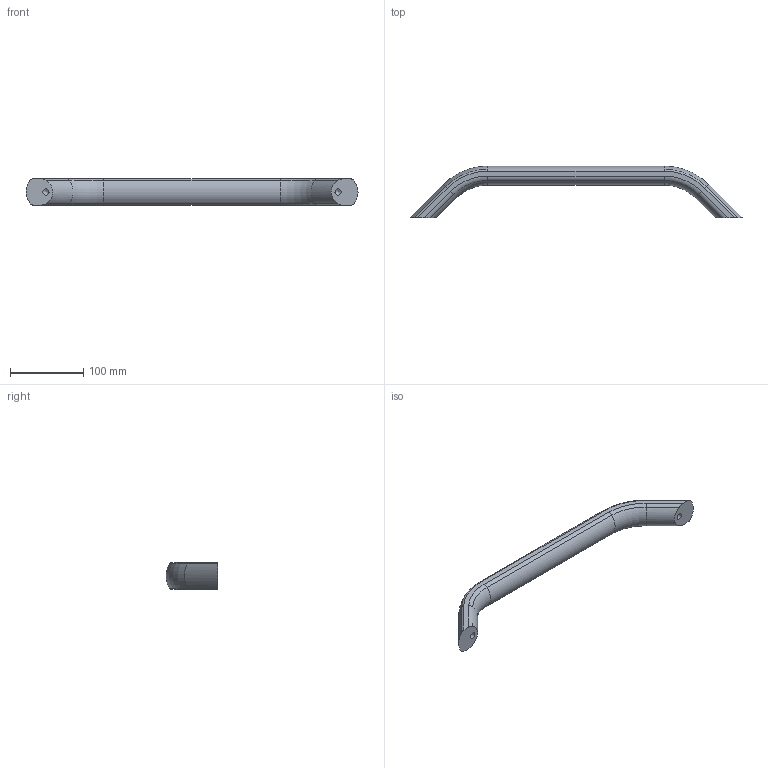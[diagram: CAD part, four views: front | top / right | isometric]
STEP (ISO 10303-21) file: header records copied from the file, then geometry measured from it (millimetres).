
FILE_DESCRIPTION( ( 'STEP AP203' ), '1' );
FILE_NAME( 'C:/Temp/Ganter_Step_05_03_2020/data/1_2/gn_428/gn_428_a/Cabinet U-handle GN 428-AL-36-400-A-EL.stp', '2020-03-05T10:11:30', ( 'License CC BY-ND 4.0' ), ( 'CADENAS' ), ' ', 'PARTsolutions', ' ' );
FILE_SCHEMA( ( 'CONFIG_CONTROL_DESIGN' ) );
Length unit declared in the file: millimetre
Products named in the file (1): _Cabinet U-handle GN 428-AL-36-400-A-EL
Bounding box: 454.73 x 70.91 x 36 mm (x, y, z)
Volume: 353030.8 mm3; surface area: 50046.4 mm2
Topology: 1 solids, 1 shells, 38 faces, 90 edges, 54 vertices
Faces by surface type: cylinder 20, torus 12, plane 4, cone 2
Full cylindrical faces by diameter (mm): 8.376 x2
Entity records: 1120 total; most frequent: DIRECTION 218, CARTESIAN_POINT 177, ORIENTED_EDGE 168, AXIS2_PLACEMENT_3D 95, EDGE_CURVE 84, VERTEX_POINT 54, CIRCLE 44, EDGE_LOOP 42
